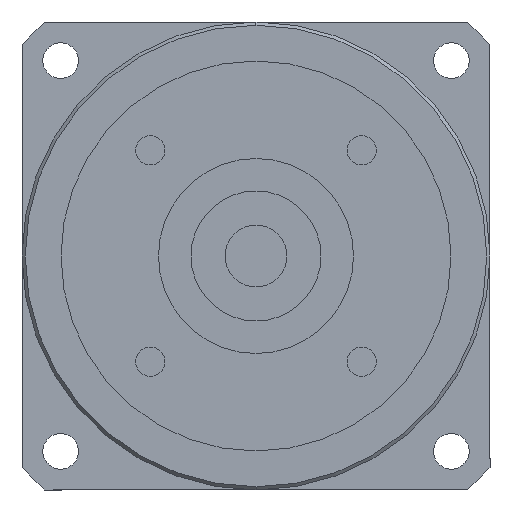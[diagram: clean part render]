
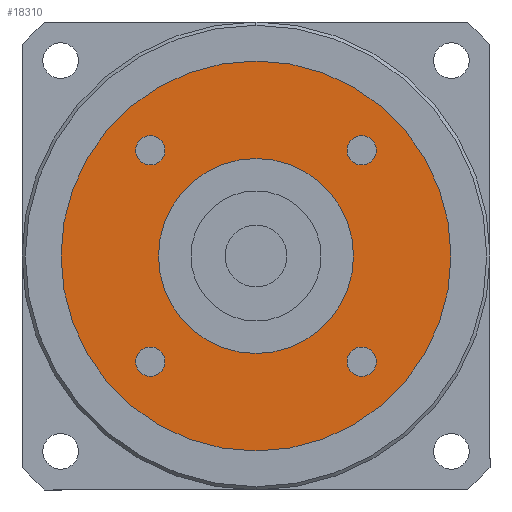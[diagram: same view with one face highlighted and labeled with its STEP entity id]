
A CAD part, left-side view. The second image highlights one B-rep face of the part: STEP entity #18310.
In plain terms, the highlighted planar face has unit normal (-1, 0, 0) as drawn and (0, 0, -1) by its records, which use the part's own axes.
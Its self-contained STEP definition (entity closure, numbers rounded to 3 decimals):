
#15090=CARTESIAN_POINT('',(0.,0.,
-91.));
#15100=DIRECTION('',(0.,0.,1.));
#15110=DIRECTION('',(0.,-1.,0.));
#15120=AXIS2_PLACEMENT_3D('',#15090,#15100,#15110);
#15130=CIRCLE('',#15120,15.);
#15140=CARTESIAN_POINT('',(0.,-15.,-91.));
#15150=VERTEX_POINT('',#15140);
#15160=CARTESIAN_POINT('',(15.,0.,-91.));
#15170=VERTEX_POINT('',#15160);
#15180=EDGE_CURVE('',#15150,#15170,#15130,.T.);
#15410=CARTESIAN_POINT('',(-15.,0.,-91.));
#15420=VERTEX_POINT('',#15410);
#15450=EDGE_CURVE('',#15420,#15150,#15130,.T.);
#15590=CARTESIAN_POINT('',(-14.013,-16.263,-91.));
#15600=VERTEX_POINT('',#15590);
#15780=CARTESIAN_POINT('',(-18.513,-16.263,-91.));
#15790=VERTEX_POINT('',#15780);
#15820=CARTESIAN_POINT('',(-16.263,-16.263,-91.));
#15830=DIRECTION('',(0.,0.,-1.));
#15840=DIRECTION('',(0.,-1.,0.));
#15850=AXIS2_PLACEMENT_3D('',#15820,#15830,#15840);
#15860=CIRCLE('',#15850,2.25);
#15870=CARTESIAN_POINT('',(-16.263,-18.513,-91.));
#15880=VERTEX_POINT('',#15870);
#15890=EDGE_CURVE('',#15880,#15790,#15860,.T.);
#15910=EDGE_CURVE('',#15600,#15880,#15860,.T.);
#17240=CARTESIAN_POINT('',(30.,0.,-91.));
#17250=VERTEX_POINT('',#17240);
#17280=CARTESIAN_POINT('',(0.,0.,
-91.));
#17290=DIRECTION('',(0.,0.,1.));
#17300=DIRECTION('',(0.,-1.,0.));
#17310=AXIS2_PLACEMENT_3D('',#17280,#17290,#17300);
#17320=CIRCLE('',#17310,30.);
#17330=CARTESIAN_POINT('',(0.,-30.,-91.));
#17340=VERTEX_POINT('',#17330);
#17350=EDGE_CURVE('',#17340,#17250,#17320,.T.);
#17370=CARTESIAN_POINT('',(-30.,0.,-91.));
#17380=VERTEX_POINT('',#17370);
#17390=EDGE_CURVE('',#17380,#17340,#17320,.T.);
#17510=CARTESIAN_POINT('',(0.,0.,
-91.));
#17520=DIRECTION('',(0.,0.,1.));
#17530=DIRECTION('',(-1.,0.,0.));
#17540=AXIS2_PLACEMENT_3D('',#17510,#17520,#17530);
#17550=PLANE('',#17540);
#17560=CARTESIAN_POINT('',(16.263,-16.263,-91.));
#17570=DIRECTION('',(0.,0.,-1.));
#17580=DIRECTION('',(1.,0.,0.));
#17590=AXIS2_PLACEMENT_3D('',#17560,#17570,#17580);
#17600=CIRCLE('',#17590,2.25);
#17610=CARTESIAN_POINT('',(18.513,-16.263,-91.));
#17620=VERTEX_POINT('',#17610);
#17630=CARTESIAN_POINT('',(16.263,-18.513,-91.));
#17640=VERTEX_POINT('',#17630);
#17650=EDGE_CURVE('',#17620,#17640,#17600,.T.);
#17660=ORIENTED_EDGE('',*,*,#17650,.F.);
#17670=CARTESIAN_POINT('',(16.263,-14.013,-91.));
#17680=VERTEX_POINT('',#17670);
#17690=EDGE_CURVE('',#17640,#17680,#17600,.T.);
#17700=ORIENTED_EDGE('',*,*,#17690,.F.);
#17710=EDGE_CURVE('',#17680,#17620,#17600,.T.);
#17720=ORIENTED_EDGE('',*,*,#17710,.F.);
#17730=EDGE_LOOP('',(#17720,#17700,#17660));
#17740=FACE_BOUND('',#17730,.T.);
#17750=CARTESIAN_POINT('',(16.263,16.263,-91.));
#17760=DIRECTION('',(0.,0.,-1.));
#17770=DIRECTION('',(0.,1.,0.));
#17780=AXIS2_PLACEMENT_3D('',#17750,#17760,#17770);
#17790=CIRCLE('',#17780,2.25);
#17800=CARTESIAN_POINT('',(16.263,18.513,-91.));
#17810=VERTEX_POINT('',#17800);
#17820=CARTESIAN_POINT('',(18.513,16.263,-91.));
#17830=VERTEX_POINT('',#17820);
#17840=EDGE_CURVE('',#17810,#17830,#17790,.T.);
#17850=ORIENTED_EDGE('',*,*,#17840,.F.);
#17860=CARTESIAN_POINT('',(14.013,16.263,-91.));
#17870=VERTEX_POINT('',#17860);
#17880=EDGE_CURVE('',#17830,#17870,#17790,.T.);
#17890=ORIENTED_EDGE('',*,*,#17880,.F.);
#17900=EDGE_CURVE('',#17870,#17810,#17790,.T.);
#17910=ORIENTED_EDGE('',*,*,#17900,.F.);
#17920=EDGE_LOOP('',(#17910,#17890,#17850));
#17930=FACE_BOUND('',#17920,.T.);
#17940=CARTESIAN_POINT('',(-16.263,16.263,-91.));
#17950=DIRECTION('',(0.,0.,-1.));
#17960=DIRECTION('',(-1.,0.,0.));
#17970=AXIS2_PLACEMENT_3D('',#17940,#17950,#17960);
#17980=CIRCLE('',#17970,2.25);
#17990=CARTESIAN_POINT('',(-18.513,16.263,-91.));
#18000=VERTEX_POINT('',#17990);
#18010=CARTESIAN_POINT('',(-16.263,18.513,-91.));
#18020=VERTEX_POINT('',#18010);
#18030=EDGE_CURVE('',#18000,#18020,#17980,.T.);
#18040=ORIENTED_EDGE('',*,*,#18030,.F.);
#18050=CARTESIAN_POINT('',(-16.263,14.013,-91.));
#18060=VERTEX_POINT('',#18050);
#18070=EDGE_CURVE('',#18020,#18060,#17980,.T.);
#18080=ORIENTED_EDGE('',*,*,#18070,.F.);
#18090=EDGE_CURVE('',#18060,#18000,#17980,.T.);
#18100=ORIENTED_EDGE('',*,*,#18090,.F.);
#18110=EDGE_LOOP('',(#18100,#18080,#18040));
#18120=FACE_BOUND('',#18110,.T.);
#18130=ORIENTED_EDGE('',*,*,#15890,.F.);
#18140=EDGE_CURVE('',#15790,#15600,#15860,.T.);
#18150=ORIENTED_EDGE('',*,*,#18140,.F.);
#18160=ORIENTED_EDGE('',*,*,#15910,.F.);
#18170=EDGE_LOOP('',(#18160,#18150,#18130));
#18180=FACE_BOUND('',#18170,.T.);
#18190=ORIENTED_EDGE('',*,*,#17350,.F.);
#18200=EDGE_CURVE('',#17250,#17380,#17320,.T.);
#18210=ORIENTED_EDGE('',*,*,#18200,.F.);
#18220=ORIENTED_EDGE('',*,*,#17390,.F.);
#18230=EDGE_LOOP('',(#18220,#18210,#18190));
#18240=FACE_OUTER_BOUND('',#18230,.T.);
#18250=EDGE_CURVE('',#15170,#15420,#15130,.T.);
#18260=ORIENTED_EDGE('',*,*,#18250,.T.);
#18270=ORIENTED_EDGE('',*,*,#15180,.T.);
#18280=ORIENTED_EDGE('',*,*,#15450,.T.);
#18290=EDGE_LOOP('',(#18280,#18270,#18260));
#18300=FACE_BOUND('',#18290,.T.);
#18310=ADVANCED_FACE('',(#17740,#17930,#18120,#18180,#18240,#18300),
#17550,.F.);
